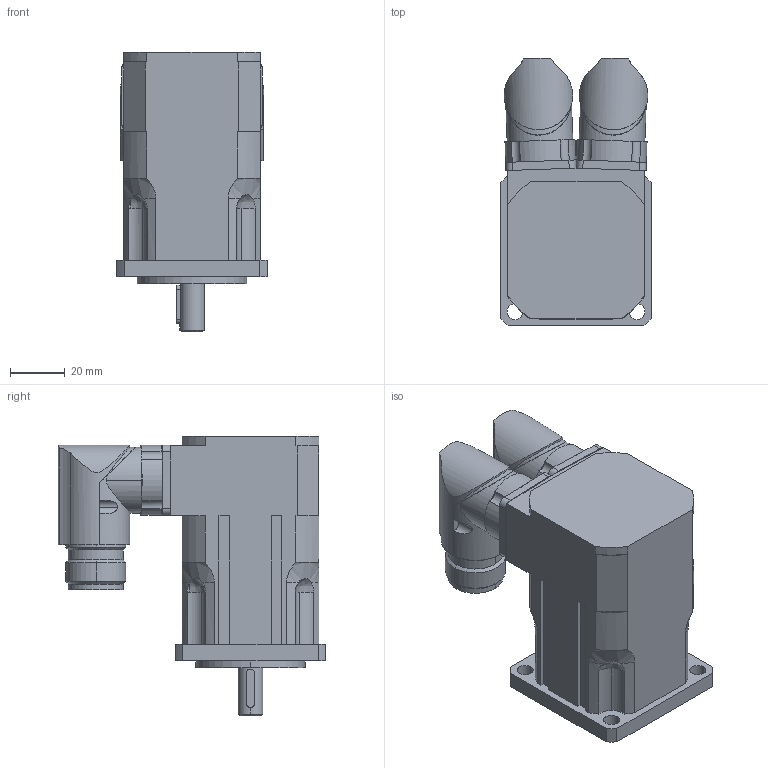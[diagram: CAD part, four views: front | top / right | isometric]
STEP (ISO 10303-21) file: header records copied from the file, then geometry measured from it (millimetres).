
FILE_DESCRIPTION(('STEP AP203'),'2;1');
FILE_NAME('MH2-0050.stp','2006-08-29T18:23:48',(''),(''),'2005.2.102','THINKDESIGN','');
FILE_SCHEMA(('CONFIG_CONTROL_DESIGN'));
Length unit declared in the file: millimetre
Bounding box: 55 x 97.7 x 102 mm (x, y, z)
Volume: 253355.5 mm3; surface area: 43929.3 mm2
Topology: 3 solids, 3 shells, 266 faces, 704 edges, 454 vertices
Faces by surface type: cylinder 120, plane 102, bspline 44
Entity records: 10039 total; most frequent: CARTESIAN_POINT 3358, ORIENTED_EDGE 1408, DIRECTION 1378, EDGE_CURVE 704, AXIS2_PLACEMENT_3D 528, VERTEX_POINT 454, VECTOR 322, LINE 322
